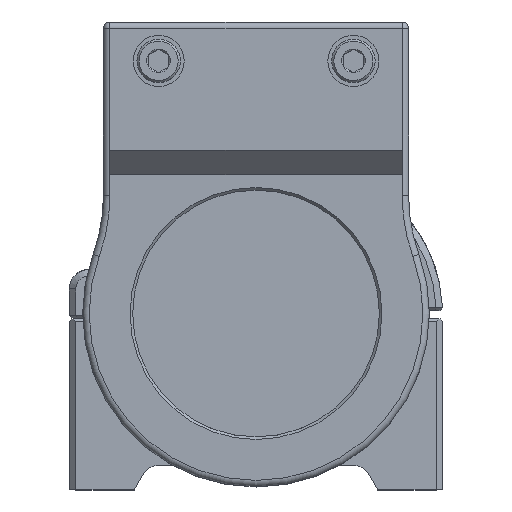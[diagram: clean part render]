
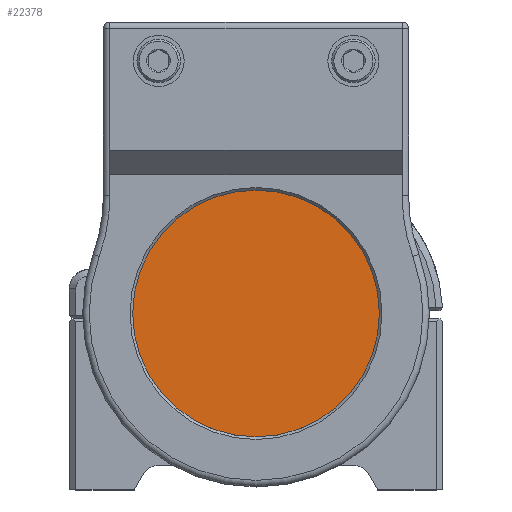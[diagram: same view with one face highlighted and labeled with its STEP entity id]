
A CAD part, top view. The second image highlights one B-rep face of the part: STEP entity #22378.
In plain terms, the highlighted planar face has unit normal (0, 0, 1).
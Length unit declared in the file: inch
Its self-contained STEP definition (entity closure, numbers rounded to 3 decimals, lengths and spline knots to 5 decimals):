
#5068 = PLANE ( 'NONE',  #12303 ) ;
#5201 = CARTESIAN_POINT ( 'NONE',  ( 0., 0., 0.1875 ) ) ;
#8185 = DIRECTION ( 'NONE',  ( 1., 0., 0. ) ) ;
#9669 = FACE_OUTER_BOUND ( 'NONE', #12365, .T. ) ;
#10952 = AXIS2_PLACEMENT_3D ( 'NONE', #21173, #18806, #8185 ) ;
#11717 = ORIENTED_EDGE ( 'NONE', *, *, #21566, .T. ) ;
#12303 = AXIS2_PLACEMENT_3D ( 'NONE', #5201, #26835, #15664 ) ;
#12365 = EDGE_LOOP ( 'NONE', ( #11717 ) ) ;
#12433 = VERTEX_POINT ( 'NONE', #20952 ) ;
#13150 = CIRCLE ( 'NONE', #10952, 1.1675 ) ;
#15664 = DIRECTION ( 'NONE',  ( 1., 0., 0. ) ) ;
#18806 = DIRECTION ( 'NONE',  ( 0., 0., 1. ) ) ;
#20952 = CARTESIAN_POINT ( 'NONE',  ( 1.1675, 0., 0.1875 ) ) ;
#21173 = CARTESIAN_POINT ( 'NONE',  ( 0., 0., 0.1875 ) ) ;
#21566 = EDGE_CURVE ( 'NONE', #12433, #12433, #13150, .T. ) ;
#22378 = ADVANCED_FACE ( 'NONE', ( #9669 ), #5068, .T. ) ;
#26835 = DIRECTION ( 'NONE',  ( 0., 0., 1. ) ) ;
